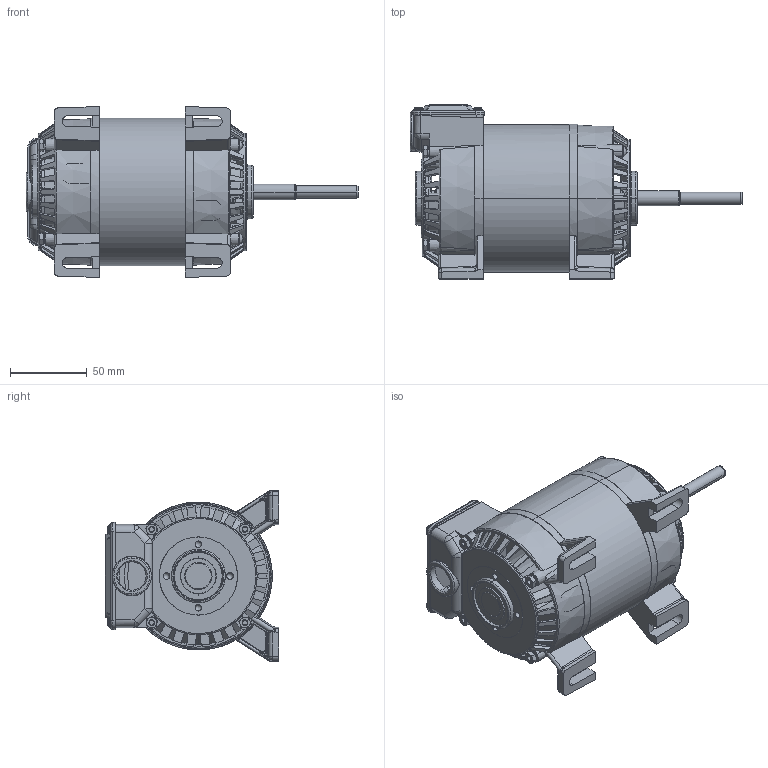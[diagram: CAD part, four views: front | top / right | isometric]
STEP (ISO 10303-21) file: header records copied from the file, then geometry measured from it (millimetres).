
FILE_DESCRIPTION (( 'STEP AP214' ), '1' );
FILE_NAME ('SD29.STEP', '2021-08-11T09:42:35', ( '' ), ( '' ), 'SwSTEP 2.0', 'SolidWorks 2020', '' );
FILE_SCHEMA (( 'AUTOMOTIVE_DESIGN' ));
Length unit declared in the file: millimetre
Products named in the file (1): SD29
Bounding box: 215.83 x 112.98 x 111.12 mm (x, y, z)
Volume: 442069.2 mm3; surface area: 147568.8 mm2
Topology: 1 solids, 5 shells, 1901 faces, 5222 edges, 3265 vertices
Faces by surface type: plane 595, cone 428, cylinder 407, bspline 376, torus 82, sphere 13
Entity records: 106855 total; most frequent: CARTESIAN_POINT 41708, ORIENTED_EDGE 10362, DIRECTION 7999, EDGE_CURVE 5181, VERTEX_POINT 3265, AXIS2_PLACEMENT_3D 3230, EDGE_LOOP 2010, FACE_OUTER_BOUND 1901
